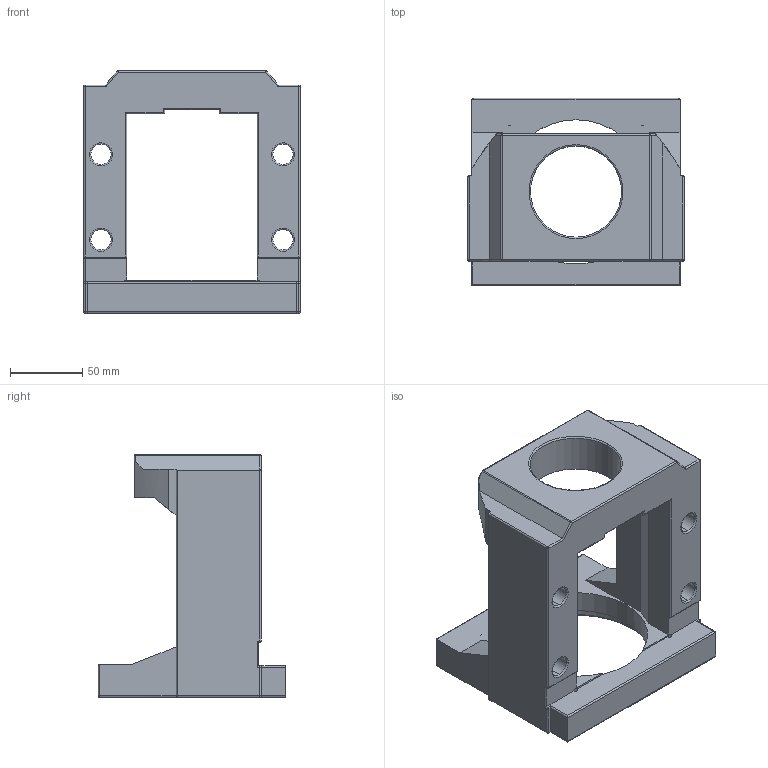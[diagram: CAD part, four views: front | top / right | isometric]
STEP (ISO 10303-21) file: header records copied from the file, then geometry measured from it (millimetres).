
FILE_DESCRIPTION (( 'STEP AP203' ), '1' );
FILE_NAME ('FK25傳動座(MBB25L-S).STEP', '2020-07-01T05:59:42', ( '' ), ( '' ), 'SwSTEP 2.0', 'SolidWorks 2018', '' );
FILE_SCHEMA (( 'CONFIG_CONTROL_DESIGN' ));
Length unit declared in the file: millimetre
Products named in the file (1): FK25傳動座(MBB25L-S)
Bounding box: 150 x 130 x 168 mm (x, y, z)
Volume: 817213.8 mm3; surface area: 124678.7 mm2
Topology: 1 solids, 1 shells, 211 faces, 531 edges, 300 vertices
Faces by surface type: cylinder 105, plane 46, cone 24, torus 20, sphere 16
Entity records: 6214 total; most frequent: CARTESIAN_POINT 1205, DIRECTION 1087, ORIENTED_EDGE 1006, EDGE_CURVE 503, AXIS2_PLACEMENT_3D 418, VERTEX_POINT 300, VECTOR 251, LINE 251
